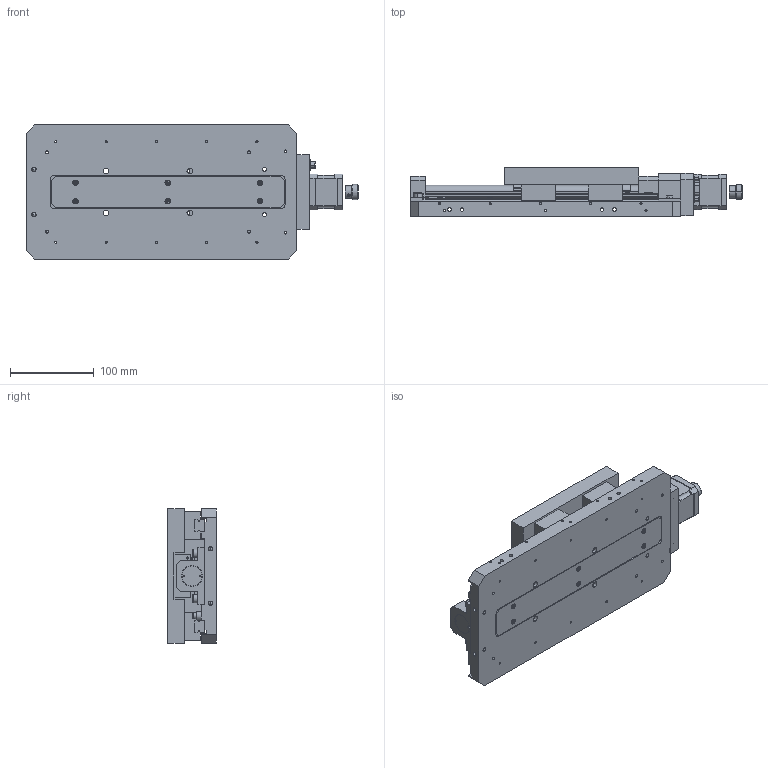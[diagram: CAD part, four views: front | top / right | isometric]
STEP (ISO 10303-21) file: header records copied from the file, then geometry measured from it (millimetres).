
FILE_DESCRIPTION (( 'STEP AP203' ), '1' );
FILE_NAME ('MOX-07-100.STEP', '2013-08-30T13:16:49', ( '' ), ( '' ), 'SwSTEP 2.0', 'SolidWorks 2010', '' );
FILE_SCHEMA (( 'CONFIG_CONTROL_DESIGN' ));
Length unit declared in the file: millimetre
Products named in the file (1): MOX-07-100
Bounding box: 396 x 58 x 160 mm (x, y, z)
Surface area: 302520.8 mm2 (no closed solid volume)
Topology: 0 solids, 113 shells, 1153 faces, 3735 edges, 2633 vertices
Faces by surface type: plane 629, cylinder 382, bspline 84, cone 58
Entity records: 52570 total; most frequent: CARTESIAN_POINT 20735, DIRECTION 6301, ORIENTED_EDGE 5917, EDGE_CURVE 3690, VERTEX_POINT 2633, LINE 2283, VECTOR 2283, AXIS2_PLACEMENT_3D 2009
